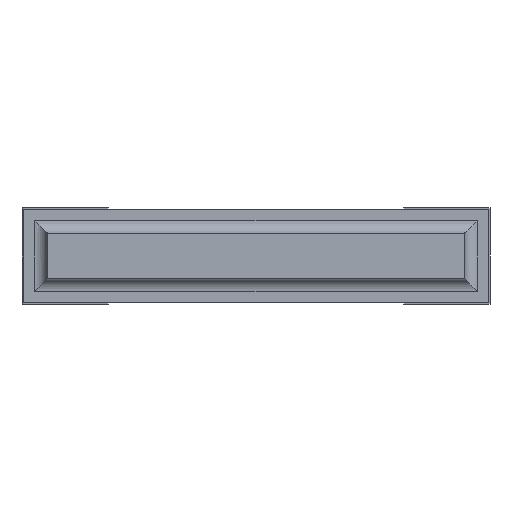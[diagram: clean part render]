
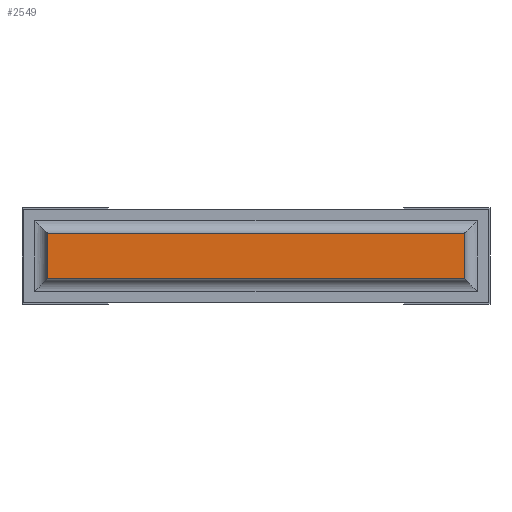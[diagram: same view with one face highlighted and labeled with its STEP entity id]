
A CAD part, front view. The second image highlights one B-rep face of the part: STEP entity #2549.
In plain terms, the highlighted planar face has unit normal (0, -1, 0).
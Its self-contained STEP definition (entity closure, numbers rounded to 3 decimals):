
#111=FACE_OUTER_BOUND('',#269,.T.);
#269=EDGE_LOOP('',(#1719,#1720,#1721,#1722));
#429=LINE('',#3639,#761);
#438=LINE('',#3667,#770);
#445=LINE('',#3684,#777);
#446=LINE('',#3686,#778);
#761=VECTOR('',#2923,10.);
#770=VECTOR('',#2948,10.);
#777=VECTOR('',#2965,10.);
#778=VECTOR('',#2968,10.);
#1093=VERTEX_POINT('',#3636);
#1094=VERTEX_POINT('',#3638);
#1105=VERTEX_POINT('',#3666);
#1110=VERTEX_POINT('',#3682);
#1325=EDGE_CURVE('',#1094,#1093,#429,.T.);
#1338=EDGE_CURVE('',#1094,#1105,#438,.T.);
#1347=EDGE_CURVE('',#1110,#1093,#445,.T.);
#1348=EDGE_CURVE('',#1105,#1110,#446,.T.);
#1719=ORIENTED_EDGE('',*,*,#1347,.F.);
#1720=ORIENTED_EDGE('',*,*,#1348,.F.);
#1721=ORIENTED_EDGE('',*,*,#1338,.F.);
#1722=ORIENTED_EDGE('',*,*,#1325,.T.);
#2419=PLANE('',#2741);
#2549=ADVANCED_FACE('',(#111),#2419,.T.);
#2741=AXIS2_PLACEMENT_3D('',#3685,#2966,#2967);
#2923=DIRECTION('',(0.,0.,-1.));
#2948=DIRECTION('',(1.,0.,0.));
#2965=DIRECTION('',(-1.,0.,0.));
#2966=DIRECTION('center_axis',(0.,-1.,0.));
#2967=DIRECTION('ref_axis',(0.,0.,-1.));
#2968=DIRECTION('',(0.,0.,-1.));
#3636=CARTESIAN_POINT('',(0.1,0.,0.16));
#3638=CARTESIAN_POINT('',(0.1,0.,0.34));
#3639=CARTESIAN_POINT('',(0.1,0.,0.34));
#3666=CARTESIAN_POINT('',(1.75,0.,0.34));
#3667=CARTESIAN_POINT('',(0.1,0.,0.34));
#3682=CARTESIAN_POINT('',(1.75,0.,0.16));
#3684=CARTESIAN_POINT('',(1.75,0.,0.16));
#3685=CARTESIAN_POINT('Origin',(1.75,0.,0.25));
#3686=CARTESIAN_POINT('',(1.75,0.,0.34));
